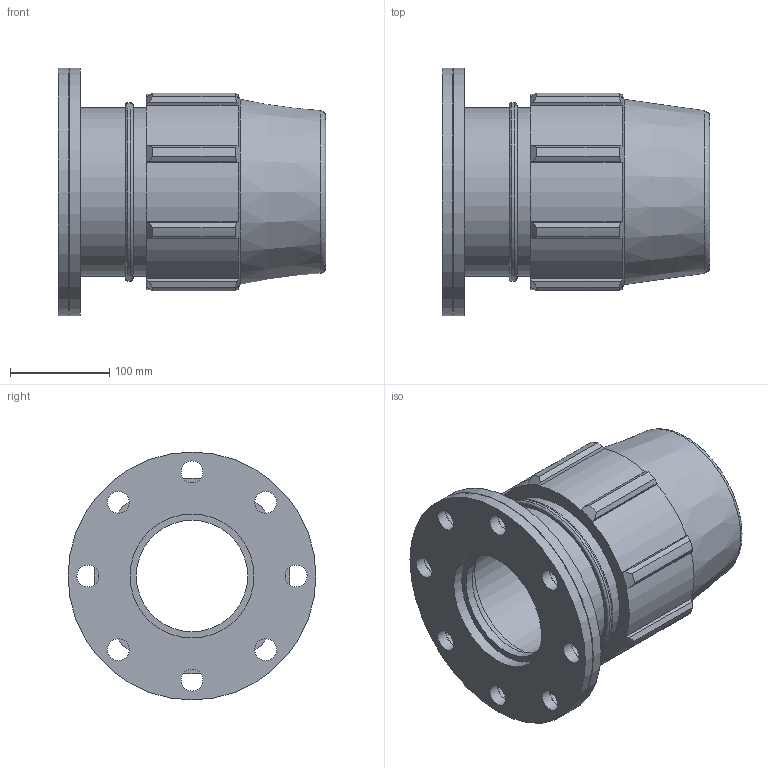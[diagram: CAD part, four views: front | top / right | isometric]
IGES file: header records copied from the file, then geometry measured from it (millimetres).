
Global section: file name: 072200125050_182200125050_0722061250500A.ipt; native system: Autodesk Inventor 2015; preprocessor: unknown; author: KIM; date: 20170606.172338; units: millimetre
Bounding box: 270 x 250 x 250 mm (x, y, z)
Volume: 4221951.6 mm3; surface area: 384351.9 mm2
Topology: 1 solids, 1 shells, 116 faces, 342 edges, 235 vertices
Faces by surface type: revolution 42, plane 41, cylinder 21, cone 12
Full cylindrical faces by diameter (mm): 169.6 x2, 180.2 x1, 250 x2
